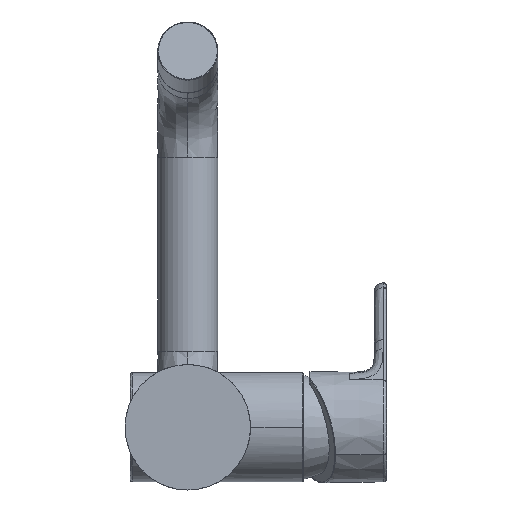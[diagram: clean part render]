
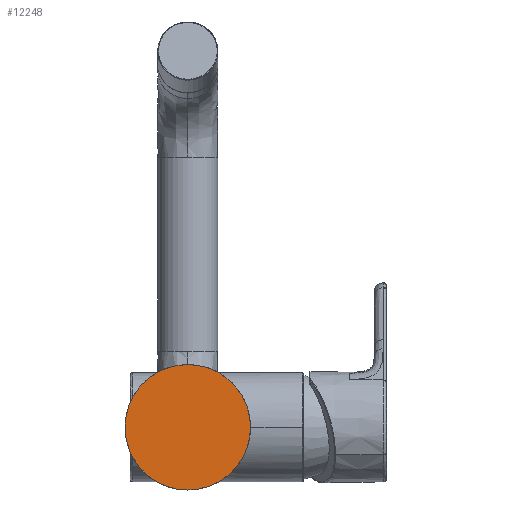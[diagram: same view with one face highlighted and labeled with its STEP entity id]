
A CAD part, front view. The second image highlights one B-rep face of the part: STEP entity #12248.
In plain terms, the highlighted planar face has unit normal (0, -1, 0).
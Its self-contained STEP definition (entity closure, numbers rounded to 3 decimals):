
#256 = AXIS2_PLACEMENT_3D ( 'NONE', #8950, #5217, #432 ) ;
#432 = DIRECTION ( 'NONE',  ( 1., 0., 0. ) ) ;
#483 = CARTESIAN_POINT ( 'NONE',  ( 0., -105.8, 0. ) ) ;
#542 = EDGE_CURVE ( 'NONE', #9807, #6960, #8217, .T. ) ;
#612 = PLANE ( 'NONE',  #4803 ) ;
#1008 = CARTESIAN_POINT ( 'NONE',  ( -25., -105.8, 0. ) ) ;
#3570 = DIRECTION ( 'NONE',  ( 0., 1., 0. ) ) ;
#4803 = AXIS2_PLACEMENT_3D ( 'NONE', #483, #8134, #9131 ) ;
#5217 = DIRECTION ( 'NONE',  ( 0., 1., 0. ) ) ;
#5283 = ORIENTED_EDGE ( 'NONE', *, *, #542, .F. ) ;
#6138 = FACE_OUTER_BOUND ( 'NONE', #11184, .T. ) ;
#6223 = AXIS2_PLACEMENT_3D ( 'NONE', #9353, #3570, #10343 ) ;
#6960 = VERTEX_POINT ( 'NONE', #1008 ) ;
#7104 = ORIENTED_EDGE ( 'NONE', *, *, #9503, .F. ) ;
#8134 = DIRECTION ( 'NONE',  ( 0., 1., 0. ) ) ;
#8217 = CIRCLE ( 'NONE', #6223, 25. ) ;
#8508 = CARTESIAN_POINT ( 'NONE',  ( 25., -105.8, 0. ) ) ;
#8950 = CARTESIAN_POINT ( 'NONE',  ( 0., -105.8, 0. ) ) ;
#9131 = DIRECTION ( 'NONE',  ( 1., 0., 0. ) ) ;
#9353 = CARTESIAN_POINT ( 'NONE',  ( 0., -105.8, 0. ) ) ;
#9503 = EDGE_CURVE ( 'NONE', #6960, #9807, #11581, .T. ) ;
#9807 = VERTEX_POINT ( 'NONE', #8508 ) ;
#10343 = DIRECTION ( 'NONE',  ( 1., 0., 0. ) ) ;
#11184 = EDGE_LOOP ( 'NONE', ( #5283, #7104 ) ) ;
#11581 = CIRCLE ( 'NONE', #256, 25. ) ;
#12248 = ADVANCED_FACE ( 'NONE', ( #6138 ), #612, .F. ) ;
